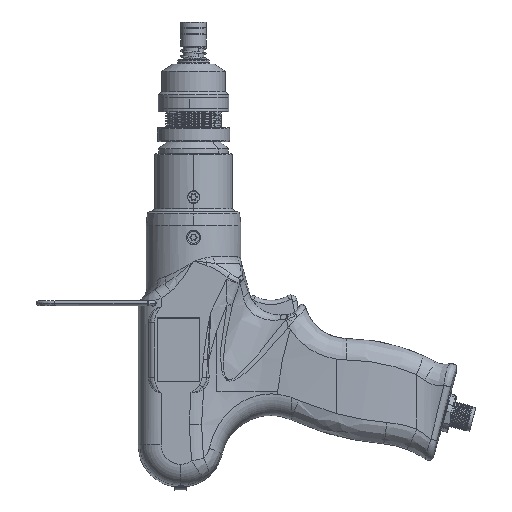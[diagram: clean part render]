
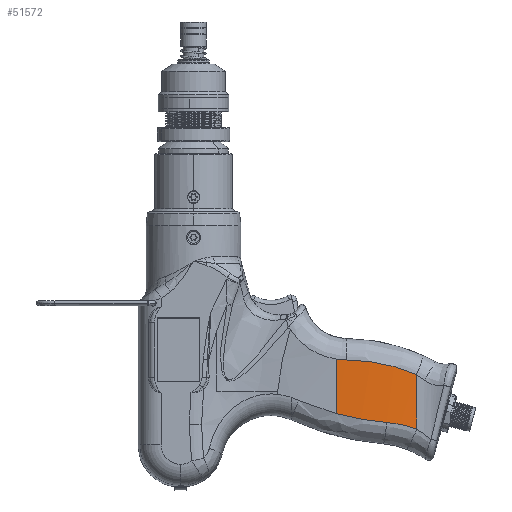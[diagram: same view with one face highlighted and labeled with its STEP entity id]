
A CAD part, left-side view. The second image highlights one B-rep face of the part: STEP entity #51572.
In plain terms, the highlighted cylindrical face has radius 275.277 mm (diameter 550.554 mm), a partial arc.
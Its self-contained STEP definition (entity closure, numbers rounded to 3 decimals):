
#917 = CARTESIAN_POINT ( 'NONE',  ( -21.974, -18.761, -287.624 ) ) ;
#3815 = CARTESIAN_POINT ( 'NONE',  ( -22.597, -13.52, -286.304 ) ) ;
#5138 = CARTESIAN_POINT ( 'NONE',  ( -24.028, 5.199, -283.773 ) ) ;
#7062 = CARTESIAN_POINT ( 'NONE',  ( -24.273, 14.873, -281.692 ) ) ;
#8473 = CARTESIAN_POINT ( 'NONE',  ( -22.255, -16.462, -260.962 ) ) ;
#12350 = CARTESIAN_POINT ( 'NONE',  ( -21.838, -19.744, -262.226 ) ) ;
#14254 = CARTESIAN_POINT ( 'NONE',  ( -23.938, 3.247, -256.385 ) ) ;
#21761 = ORIENTED_EDGE ( 'NONE', *, *, #31326, .T. ) ;
#27262 = CARTESIAN_POINT ( 'NONE',  ( -21.659, -21.035, -288.458 ) ) ;
#27618 = CARTESIAN_POINT ( 'NONE',  ( -23.852, 1.084, -284.5 ) ) ;
#30985 = CARTESIAN_POINT ( 'NONE',  ( -23.297, -6.347, -257.991 ) ) ;
#31326 = EDGE_CURVE ( 'NONE', #228471, #250203, #257454, .T. ) ;
#32413 = EDGE_CURVE ( 'NONE', #124561, #228471, #211286, .T. ) ;
#37689 = CARTESIAN_POINT ( 'NONE',  ( -24.03, 5.21, -256.188 ) ) ;
#38097 = CARTESIAN_POINT ( 'NONE',  ( 251.004, 16.811, -255.29 ) ) ;
#38643 = CARTESIAN_POINT ( 'NONE',  ( -23.912, 2.72, -256.444 ) ) ;
#40515 = EDGE_CURVE ( 'NONE', #153547, #264464, #191297, .T. ) ;
#46851 = CARTESIAN_POINT ( 'NONE',  ( -22.547, -13.965, -286.4 ) ) ;
#47631 = ORIENTED_EDGE ( 'NONE', *, *, #32413, .T. ) ;
#47819 = CARTESIAN_POINT ( 'NONE',  ( -22.266, -16.454, -286.949 ) ) ;
#48005 = LINE ( 'NONE', #242948, #254664 ) ;
#51572 = ADVANCED_FACE ( 'NONE', ( #171459 ), #202623, .T. ) ;
#53738 = CARTESIAN_POINT ( 'NONE',  ( -23.246, -6.947, -285.35 ) ) ;
#55441 = CARTESIAN_POINT ( 'NONE',  ( -22.01, -18.44, -261.701 ) ) ;
#56416 = CARTESIAN_POINT ( 'NONE',  ( -22.604, -13.458, -259.936 ) ) ;
#57356 = CARTESIAN_POINT ( 'NONE',  ( -22.49, -14.466, -260.267 ) ) ;
#60240 = CARTESIAN_POINT ( 'NONE',  ( -24.116, 7.53, -256.026 ) ) ;
#67604 = CARTESIAN_POINT ( 'NONE',  ( -24.231, 12.002, -255.88 ) ) ;
#71644 = CARTESIAN_POINT ( 'NONE',  ( -23.594, -2.924, -285.018 ) ) ;
#75492 = CARTESIAN_POINT ( 'NONE',  ( -24.058, 5.938, -283.64 ) ) ;
#79785 = CARTESIAN_POINT ( 'NONE',  ( -23.354, -5.66, -257.838 ) ) ;
#82668 = CARTESIAN_POINT ( 'NONE',  ( -23.885, 2.191, -256.506 ) ) ;
#84577 = CARTESIAN_POINT ( 'NONE',  ( -23.982, 4.14, -256.29 ) ) ;
#95097 = CARTESIAN_POINT ( 'NONE',  ( -24.091, 6.8, -283.48 ) ) ;
#99408 = CARTESIAN_POINT ( 'NONE',  ( -22.787, -11.786, -259.407 ) ) ;
#103270 = CARTESIAN_POINT ( 'NONE',  ( -23.93, 3.073, -256.404 ) ) ;
#105598 = DIRECTION ( 'NONE',  ( -1., 0., 0. ) ) ;
#113291 = EDGE_LOOP ( 'NONE', ( #47631, #21761, #170927, #203612, #240423, #181516 ) ) ;
#113349 = CARTESIAN_POINT ( 'NONE',  ( -22.758, -12.038, -286.01 ) ) ;
#114294 = CARTESIAN_POINT ( 'NONE',  ( -23.246, -6.947, -285.35 ) ) ;
#115255 = CARTESIAN_POINT ( 'NONE',  ( -21.659, -21.035, -288.458 ) ) ;
#124561 = VERTEX_POINT ( 'NONE', #67604 ) ;
#125733 = CARTESIAN_POINT ( 'NONE',  ( -24.205, 10.546, -255.891 ) ) ;
#127888 = EDGE_CURVE ( 'NONE', #181705, #124561, #185255, .T. ) ;
#134900 = CARTESIAN_POINT ( 'NONE',  ( -22.973, -9.953, -285.659 ) ) ;
#135566 = B_SPLINE_CURVE_WITH_KNOTS ( 'NONE', 3,
 ( #231154, #7062, #277113, #164560, #209593, #95097, #75492, #276121, #187966, #5138, #27618, #71644, #184123 ),
 .UNSPECIFIED., .F., .F.,
 ( 4, 2, 1, 1, 1, 2, 2, 4 ),
 ( 0.437, 0.578, 0.648, 0.684, 0.701, 0.71, 0.719, 1. ),
 .UNSPECIFIED. ) ;
#149254 = CARTESIAN_POINT ( 'NONE',  ( -23.818, 0.96, -256.661 ) ) ;
#153547 = VERTEX_POINT ( 'NONE', #53738 ) ;
#158394 = CARTESIAN_POINT ( 'NONE',  ( -22.564, -13.816, -286.367 ) ) ;
#161143 = CARTESIAN_POINT ( 'NONE',  ( -24.273, 16.811, -255.488 ) ) ;
#164560 = CARTESIAN_POINT ( 'NONE',  ( -24.19, 9.992, -282.834 ) ) ;
#170759 = CARTESIAN_POINT ( 'NONE',  ( -24.078, 6.458, -256.094 ) ) ;
#170927 = ORIENTED_EDGE ( 'NONE', *, *, #287406, .T. ) ;
#171459 = FACE_OUTER_BOUND ( 'NONE', #113291, .T. ) ;
#173637 = CARTESIAN_POINT ( 'NONE',  ( -24.231, 12.002, -255.88 ) ) ;
#174399 = CARTESIAN_POINT ( 'NONE',  ( -24.273, 16.811, -255.488 ) ) ;
#178977 = CARTESIAN_POINT ( 'NONE',  ( -22.646, -13.076, -286.212 ) ) ;
#179127 = EDGE_CURVE ( 'NONE', #264464, #181705, #48005, .T. ) ;
#181516 = ORIENTED_EDGE ( 'NONE', *, *, #127888, .T. ) ;
#181705 = VERTEX_POINT ( 'NONE', #263049 ) ;
#183274 = DIRECTION ( 'NONE',  ( 0., 0., -1. ) ) ;
#184123 = CARTESIAN_POINT ( 'NONE',  ( -23.246, -6.947, -285.35 ) ) ;
#185255 = B_SPLINE_CURVE_WITH_KNOTS ( 'NONE', 3,
 ( #210977, #12350, #55441, #8473, #191339, #57356, #234481, #56416, #99408, #256010, #213867, #30985, #79785, #236409, #254049, #278493, #149254, #82668, #38643, #103270, #14254, #84577, #37689, #170759, #282379, #240248, #60240, #237380, #125733, #173637 ),
 .UNSPECIFIED., .F., .F.,
 ( 4, 2, 1, 2, 2, 1, 1, 2, 2, 1, 1, 1, 2, 2, 1, 1, 2, 2, 4 ),
 ( 0., 0.125, 0.187, 0.219, 0.25, 0.375, 0.437, 0.469, 0.5, 0.625, 0.687, 0.719, 0.734, 0.75, 0.813, 0.844, 0.859, 0.875, 1. ),
 .UNSPECIFIED. ) ;
#187729 = AXIS2_PLACEMENT_3D ( 'NONE', #38097, #239709, #105598 ) ;
#187966 = CARTESIAN_POINT ( 'NONE',  ( -24.033, 5.321, -283.751 ) ) ;
#191297 = B_SPLINE_CURVE_WITH_KNOTS ( 'NONE', 3,
 ( #114294, #245551, #134900, #113349, #178977, #3815, #158394, #46851, #47819, #917, #115255 ),
 .UNSPECIFIED., .F., .F.,
 ( 4, 1, 1, 1, 2, 2, 4 ),
 ( 0., 0.25, 0.375, 0.437, 0.469, 0.5, 1. ),
 .UNSPECIFIED. ) ;
#191339 = CARTESIAN_POINT ( 'NONE',  ( -22.375, -15.468, -260.606 ) ) ;
#202623 = CYLINDRICAL_SURFACE ( 'NONE', #187729, 275.277 ) ;
#203612 = ORIENTED_EDGE ( 'NONE', *, *, #40515, .T. ) ;
#209593 = CARTESIAN_POINT ( 'NONE',  ( -24.151, 8.522, -283.146 ) ) ;
#210977 = CARTESIAN_POINT ( 'NONE',  ( -21.659, -21.035, -262.785 ) ) ;
#211286 = B_SPLINE_CURVE_WITH_KNOTS ( 'NONE', 3,
 ( #289881, #219423, #241965, #174399 ),
 .UNSPECIFIED., .F., .F.,
 ( 4, 4 ),
 ( 0., 0.152 ),
 .UNSPECIFIED. ) ;
#213867 = CARTESIAN_POINT ( 'NONE',  ( -23.21, -7.376, -258.227 ) ) ;
#219423 = CARTESIAN_POINT ( 'NONE',  ( -24.259, 13.615, -255.87 ) ) ;
#220428 = DIRECTION ( 'NONE',  ( 0., 0., 1. ) ) ;
#228471 = VERTEX_POINT ( 'NONE', #161143 ) ;
#229356 = VECTOR ( 'NONE', #183274, 1000. ) ;
#231154 = CARTESIAN_POINT ( 'NONE',  ( -24.273, 16.811, -281.164 ) ) ;
#234481 = CARTESIAN_POINT ( 'NONE',  ( -22.566, -13.796, -260.046 ) ) ;
#236409 = CARTESIAN_POINT ( 'NONE',  ( -23.382, -5.317, -257.764 ) ) ;
#237380 = CARTESIAN_POINT ( 'NONE',  ( -24.169, 9.114, -255.936 ) ) ;
#237941 = CARTESIAN_POINT ( 'NONE',  ( -24.273, 16.811, -281.164 ) ) ;
#239709 = DIRECTION ( 'NONE',  ( 0., 0., -1. ) ) ;
#240248 = CARTESIAN_POINT ( 'NONE',  ( -24.11, 7.349, -256.036 ) ) ;
#240423 = ORIENTED_EDGE ( 'NONE', *, *, #179127, .T. ) ;
#241965 = CARTESIAN_POINT ( 'NONE',  ( -24.273, 15.218, -255.739 ) ) ;
#242948 = CARTESIAN_POINT ( 'NONE',  ( -21.659, -21.035, -255.29 ) ) ;
#245551 = CARTESIAN_POINT ( 'NONE',  ( -23.141, -8.153, -285.449 ) ) ;
#246038 = CARTESIAN_POINT ( 'NONE',  ( -24.273, 16.811, -255.29 ) ) ;
#250203 = VERTEX_POINT ( 'NONE', #237941 ) ;
#254049 = CARTESIAN_POINT ( 'NONE',  ( -23.52, -3.584, -257.401 ) ) ;
#254664 = VECTOR ( 'NONE', #220428, 1000. ) ;
#256010 = CARTESIAN_POINT ( 'NONE',  ( -22.993, -9.763, -258.821 ) ) ;
#257454 = LINE ( 'NONE', #246038, #229356 ) ;
#263049 = CARTESIAN_POINT ( 'NONE',  ( -21.659, -21.035, -262.785 ) ) ;
#264464 = VERTEX_POINT ( 'NONE', #27262 ) ;
#276121 = CARTESIAN_POINT ( 'NONE',  ( -24.043, 5.568, -283.707 ) ) ;
#277113 = CARTESIAN_POINT ( 'NONE',  ( -24.252, 12.927, -282.176 ) ) ;
#278493 = CARTESIAN_POINT ( 'NONE',  ( -23.67, -1.495, -257.018 ) ) ;
#282379 = CARTESIAN_POINT ( 'NONE',  ( -24.098, 6.993, -256.059 ) ) ;
#287406 = EDGE_CURVE ( 'NONE', #250203, #153547, #135566, .T. ) ;
#289881 = CARTESIAN_POINT ( 'NONE',  ( -24.231, 12.002, -255.88 ) ) ;
